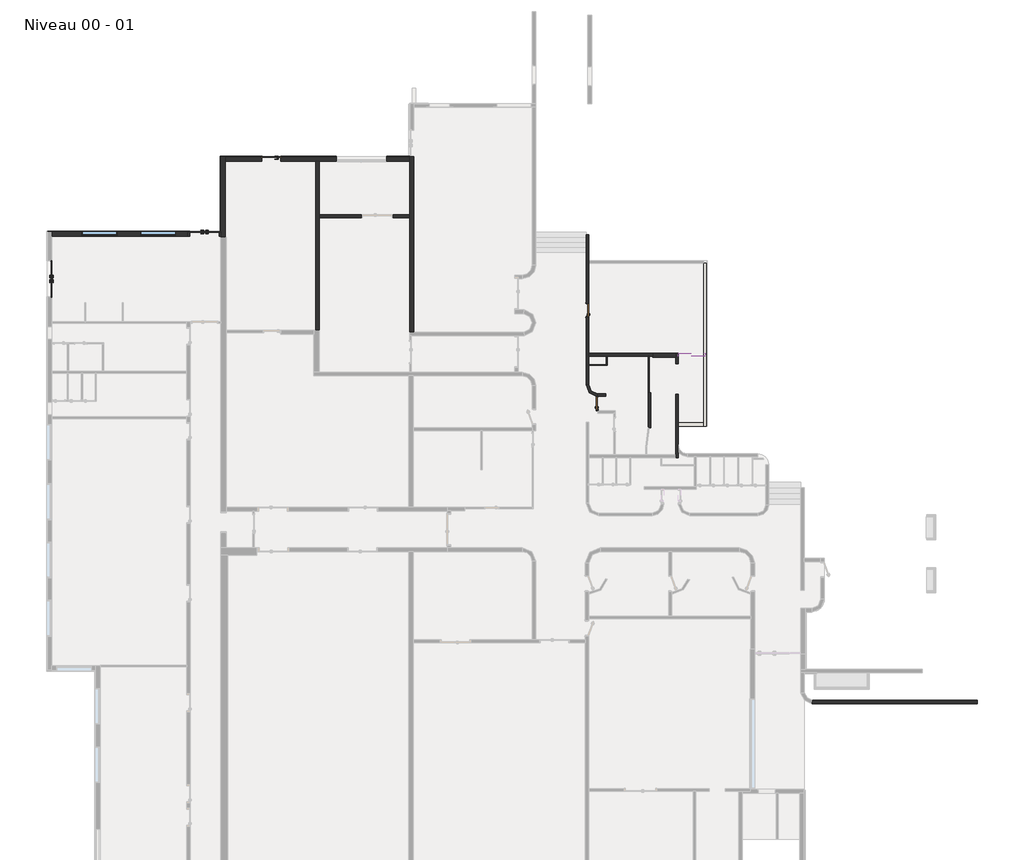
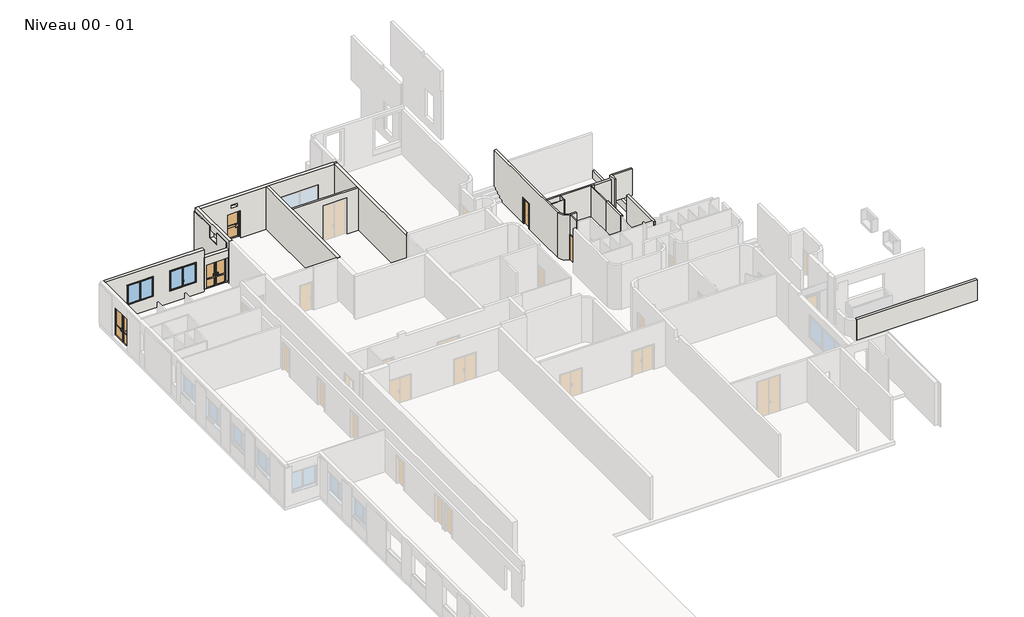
# One storey, part 7 of 8: 26 walls, 5 doors, 2 windows.
"""IFC4 building model written with IfcOpenShell, lengths in millimetres."""

from ifc_helpers import new_model, si_unit, frame, origin, place, context, project, spatial, polyline, circle_curve, outline, extrude, faceted_brep, transform, mapped, element, save
from ifc_brep_helpers import plane_surface, cylinder_surface, revolved_surface, advanced_brep
from components import door_eeb2bbe0, door_1f832047, door_1_63m_x_2_10m_9fa24bd7, door_103m_x_2_20m_767e410a, door_2m_x_2_5m_55b985e7, window_200_x_160_064ba838

model = new_model("IFC4")

# Units and contexts
model_context = context("Model", 3, world=origin())
ifc_project = project(units=[si_unit("LENGTHUNIT", "METRE", prefix="MILLI")], contexts=[model_context])

# Site, building, storey
site = spatial("IfcSite", under=ifc_project)
building = spatial("IfcBuilding", under=site)
storey = spatial("IfcBuildingStorey", under=building, Name="Niveau 00 - 01", Elevation=253.3082742)

# Doors
placement = place(None, origin())
door_shape = door_eeb2bbe0(model_context)
element("IfcDoor", 1, ObjectType="@_Int. Simple : @_PP (0.73m x 2.04m)", at=placement, inside=storey, context=model_context, shape_type="MappedRepresentation", body=[
    mapped(door_shape, transform((-15313.1997484, -5900.1664912, 253.3082742), x_axis=(0.0, 1.0, 0.0), y_axis=(-1.0, 0.0, 0.0), z_axis=(0.0, 0.0, 1.0))),
])
door_2_shape = door_1f832047(model_context)
element("IfcDoor", 2, ObjectType="@_Int. Simple : @_PP (0.73m x 2.04m)", at=placement, inside=storey, context=model_context, shape_type="MappedRepresentation", body=[
    mapped(door_2_shape, transform((-15868.9891685, -709.1151369, 253.3082742), x_axis=(0.0, 1.0, 0.0), y_axis=(-1.0, 0.0, 0.0), z_axis=(0.0, 0.0, 1.0))),
])
door_1_63m_x_2_10m_shape = door_1_63m_x_2_10m_9fa24bd7(model_context)
element("IfcDoor", 3, ObjectType="PVC Double - Panneaux vitrés haut : 1.63m x 2.10m", at=placement, inside=storey, context=model_context, shape_type="MappedRepresentation", body=[
    mapped(door_1_63m_x_2_10m_shape, transform((-37248.9891761, 3509.6445068, 253.3082742), x_axis=(-1.0, 0.0, 0.0), y_axis=(0.0, -1.0, 0.0), z_axis=(0.0, 0.0, 1.0))),
])
door_103m_x_2_20m_shape = door_103m_x_2_20m_767e410a(model_context)
element("IfcDoor", 4, ObjectType="PVC Panneau Vitré - Traverse : 103m x 2.20m", at=placement, inside=storey, context=model_context, shape_type="MappedRepresentation", body=[
    mapped(door_103m_x_2_20m_shape, transform((-33522.5516988, 7697.6789506, 253.3082742), x_axis=(-1.0, 0.0, 0.0), y_axis=(0.0, -1.0, 0.0), z_axis=(0.0, 0.0, 1.0))),
])
door_2m_x_2_5m_shape = door_2m_x_2_5m_55b985e7(model_context)
element("IfcDoor", 5, ObjectType="PVC Double - Panneaux vitrés haut : 2m x 2.5m", at=placement, inside=storey, context=model_context, shape_type="MappedRepresentation", body=[
    mapped(door_2m_x_2_5m_shape, transform((-45914.2374821, 1001.8222525, 253.3082742), x_axis=(0.0, 1.0, 0.0), y_axis=(-1.0, 0.0, 0.0), z_axis=(0.0, 0.0, 1.0))),
])

# Walls
element("IfcWall", 6, ObjectType="@_Générique - Int. 150 mm", at=placement, inside=storey, context=model_context, shape_type="Brep", body=[
    faceted_brep([(-15793.9891685, -3309.1151376, 253.3082742), (-14817.4809573, -3309.1151376, 253.3082742), (-14767.4809573, -3309.1151376, 253.3082742), (-12472.7391726, -3309.1151376, 253.3082742), (-12422.7391726, -3309.1151376, 253.3082742), (-12206.3653185, -3309.1151376, 253.3082742), (-12206.3653185, -3309.1151376, 3871.8727639), (-12422.7391726, -3309.1151376, 3871.8727639), (-12472.7391726, -3309.1151376, 3871.8727639), (-14767.4809573, -3309.1151376, 3871.8727639), (-14817.4809573, -3309.1151376, 3871.8727639), (-15793.9891685, -3309.1151376, 3871.8727639), (-15793.9891685, -3159.1151376, 253.3082742), (-15793.9891685, -3159.1151376, 3871.8727639), (-12206.3653185, -3159.1151376, 3871.8727639), (-12206.3653185, -3159.1151376, 253.3082742)], [[[0, 1, 2, 3, 4, 5, 6, 7, 8, 9, 10, 11]], [[12, 13, 14, 15]], [[5, 4, 3, 2, 1, 0, 12, 15]], [[6, 5, 15, 14]], [[0, 11, 13, 12]], [[11, 10, 9, 8, 7, 6, 14, 13]]]),
])
element("IfcWall", 7, ObjectType="@_Générique - Int. 150 mm", at=placement, inside=storey, context=model_context, shape_type="SweptSolid", body=[
    extrude(outline(polyline([(2157.8971268, 0.0), (2157.8971268, -3450.0), (-2889.2279215, -3450.0), (-2889.2279215, 0.0), (-542.1028732, 0.0), (-542.1028732, -2935.0), (1257.8971268, -2935.0), (1257.8971268, 0.0), (2157.8971268, 0.0)])), frame((-27961.8862996, 4422.0525562, 253.3082742), z_axis=(-6.1910359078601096e-12, 1.0, 0.0), x_axis=(1.0, 6.1910359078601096e-12, 0.0)), (0.0, 0.0, 1.0), 150.0),
])
element("IfcWall", 8, ObjectType="Mur EXE 200- Hach", at=placement, inside=storey, context=model_context, shape_type="SweptSolid", body=[
    extrude(outline(polyline([(-3316.4075603, -22532.8743717), (5905.5018109, -22532.8743717), (5922.5130184, -22732.8743717), (-3333.4187679, -22732.8743717), (-3316.4075603, -22532.8743717)])), frame((0.0, 0.0, -50.0), z_axis=(0.0, 0.0, 1.0), x_axis=(1.0, 0.0, 0.0)), (0.0, 0.0, 1.0), 1652.3356406),
])
element("IfcWall", 9, ObjectType="@_Générique - Int. 150 mm", at=placement, inside=storey, context=model_context, shape_type="Brep", body=[
    faceted_brep([(-9363.9891683, 1870.9456807, 253.3082742), (-9363.9891683, -7021.1974072, 253.3082742), (-9363.9891683, -7221.1974072, 253.3082742), (-9363.9891683, -7221.1974072, 648.0838649), (-9363.9891683, -7221.1974072, 693.3082742), (-9363.9891683, -7221.1974072, 893.3082742), (-9363.9891683, -3158.0708354, 893.3082742), (-9363.9891683, -1629.1151376, 893.3082742), (-9363.9891683, 1870.9456807, 893.3082742), (-9213.9891683, -7221.1974072, 253.3082742), (-9213.9891683, 1870.9456807, 253.3082742), (-9213.9891683, 1870.9456807, 693.3082742), (-9213.9891683, 1870.9456807, 893.3082742), (-9213.9891683, -1629.1151376, 893.3082742), (-9213.9891683, -3158.0708354, 893.3082742), (-9213.9891683, -7221.1974072, 893.3082742), (-9213.9891683, -7221.1974072, 693.3082742)], [[[0, 1, 2, 3, 4, 5, 6, 7, 8]], [[9, 10, 11, 12, 13, 14, 15, 16]], [[2, 1, 0, 10, 9]], [[8, 7, 6, 5, 15, 14, 13, 12]], [[2, 9, 16, 15, 5, 4, 3]], [[0, 8, 12, 11, 10]]]),
])
element("IfcWall", 10, ObjectType="@_Générique - Int. 100 mm", at=placement, inside=storey, context=model_context, shape_type="AdvancedBrep", body=[
    advanced_brep(
    [(-15363.1997484, -6362.7495118, 253.3082742), (-15363.1997484, -6362.7495118, 3871.8727639), (-15363.1997484, -5555.3591131, 3871.8727639), (-15363.1997484, -5555.3591131, 2328.3082742), (-15363.1997484, -6335.1664912, 2328.3082742), (-15363.1997484, -6335.1664912, 253.3082742), (-15263.1997484, -5558.3246809, 2328.3082742), (-15263.1997484, -5558.3246809, 3871.8727639), (-15263.1997484, -6359.0543134, 3871.8727639), (-15263.1997484, -6359.0543134, 253.3082742), (-15263.1997484, -6335.1664912, 253.3082742), (-15263.1997484, -6335.1664912, 2328.3082742), (-15293.9891721, -6359.054313, 253.3082742), (-15293.9891685, -5559.0543122, 3871.8727639), (-15293.9891685, -5559.0543122, 2328.3082742), (-15293.9678073, -6359.0543134, 3871.8727639)],
    [
        (0, 1),
        (1, 2),
        (2, 3),
        (3, 4),
        (4, 5),
        (5, 0),
        (6, 7),
        (7, 8),
        (8, 9),
        (9, 10),
        (10, 11),
        (11, 6),
        (12, 0, circle_curve(frame((-15293.9891721, -7009.054313, 253.3082742), z_axis=(0.0, 0.0, 1.0), x_axis=(6.136732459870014e-10, 1.0, 0.0)), 650.0)),
        (5, 10),
        (9, 12),
        (2, 13, circle_curve(frame((-15293.9891685, -4909.0543122, 3871.8727639), z_axis=(0.0, 0.0, 1.0), x_axis=(6.136609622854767e-10, -1.0, 0.0)), 650.0)),
        (13, 7, circle_curve(frame((-15293.9891685, -4909.0543122, 3871.8727639), z_axis=(0.0, 0.0, 1.0), x_axis=(6.136609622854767e-10, -1.0, 0.0)), 650.0)),
        (6, 14, circle_curve(frame((-15293.9891685, -4909.0543122, 2328.3082742), z_axis=(0.0, 0.0, -1.0), x_axis=(6.136609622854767e-10, -1.0, 0.0)), 650.0)),
        (14, 3, circle_curve(frame((-15293.9891685, -4909.0543122, 2328.3082742), z_axis=(0.0, 0.0, -1.0), x_axis=(6.136609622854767e-10, -1.0, 0.0)), 650.0)),
        (12, 15),
        (15, 1, circle_curve(frame((-15293.9891721, -7009.054313, 3871.8727639), z_axis=(0.0, 0.0, 1.0), x_axis=(6.136732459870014e-10, 1.0, 0.0)), 650.0)),
        (8, 15),
        (11, 4),
    ],
    [
        plane_surface(frame((-15363.1997484, -3922.4956437, 253.3082742), z_axis=(-1.0, 0.0, 0.0), x_axis=(0.0, -1.0, 0.0))),
        plane_surface(frame((-15263.1997484, -3922.4956437, 253.3082742), z_axis=(1.0, 0.0, 0.0), x_axis=(0.0, 1.0, 0.0))),
        plane_surface(frame((-15363.1997484, -5483.7333127, 253.3082742), z_axis=(0.0, 0.0, -1.0), x_axis=(1.0, 0.0, 0.0))),
        revolved_surface(polyline([(-15293.989168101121, -5559.0543122, 3871.8727639), (-15293.989168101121, -5559.0543122, 2328.3082742)]), (-15293.9891685, -4909.0543122, 253.3082742), (0.0, 0.0, 1.0)),
        revolved_surface(polyline([(-15293.989171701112, -6359.054313, 3871.8727639), (-15293.989171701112, -6359.054313, 253.3082742)]), (-15293.9891721, -7009.054313, 253.3082742), (0.0, 0.0, 1.0)),
        plane_surface(frame((-14844.7120712, -6359.0543134, 253.3082742), z_axis=(0.0, -1.0, 0.0), x_axis=(-1.0, 0.0, 0.0))),
        plane_surface(frame((-13839.1997484, -5535.1664912, 2328.3082742), z_axis=(0.0, 0.0, -1.0), x_axis=(-1.0, 0.0, 0.0))),
        plane_surface(frame((-13839.1997484, -6335.1664912, 2328.3082742), z_axis=(0.0, 1.0, 0.0), x_axis=(-1.0, 0.0, 0.0))),
        plane_surface(frame((-25843.9891731, 10670.8848595, 3871.8727639), z_axis=(0.0, 0.0, 1.0), x_axis=(0.0, 1.0, 0.0))),
    ],
    [
        (0, [[1, 2, 3, 4, 5, 6]]),
        (1, [[7, 8, 9, 10, 11, 12]]),
        (2, [[13, -6, 14, -10, 15]]),
        (3, [[-3, 16, 17, -7, 18, 19]]),
        (4, [[-1, -13, 20, 21]]),
        (5, [[-9, 22, -20, -15]]),
        (6, [[23, -4, -19, -18, -12]]),
        (7, [[-23, -11, -14, -5]]),
        (8, [[-17, -16, -2, -21, -22, -8]]),
    ],
),
])
element("IfcWall", 11, ObjectType="@_Générique - Int. 50 mm", at=placement, inside=storey, context=model_context, shape_type="Brep", body=[
    faceted_brep([(-14767.4809573, -3832.3398245, 253.3082742), (-14767.4809573, -3309.1151376, 253.3082742), (-14767.4809573, -3309.1151376, 3871.8727639), (-14767.4809573, -3832.3398245, 3871.8727639), (-14817.4809573, -3832.3398245, 253.3082742), (-14817.4809573, -3832.3398245, 3871.8727639), (-14817.4809573, -3782.3398245, 3871.8727639), (-14817.4809573, -3309.1151376, 3871.8727639), (-14817.4809573, -3309.1151376, 253.3082742), (-14817.4809573, -3782.3398245, 253.3082742)], [[[0, 1, 2, 3]], [[4, 5, 6, 7, 8, 9]], [[1, 0, 4, 9, 8]], [[0, 3, 5, 4]], [[2, 1, 8, 7]], [[3, 2, 7, 6, 5]]]),
])
element("IfcWall", 12, ObjectType="@_Générique - Int. 50 mm", at=placement, inside=storey, context=model_context, shape_type="SweptSolid", body=[
    extrude(outline(polyline([(-15793.9891685, -3782.3398245), (-14817.4809573, -3782.3398245), (-14817.4809573, -3832.3398245), (-15793.9891685, -3832.3398245), (-15793.9891685, -3782.3398245)])), frame((0.0, 0.0, 253.3082742), z_axis=(0.0, 0.0, 1.0), x_axis=(1.0, 0.0, 0.0)), (0.0, 0.0, 1.0), 3618.5644896),
])
element("IfcWall", 13, ObjectType="Mur EXE 40- Hach", at=placement, inside=storey, context=model_context, shape_type="Brep", body=[
    faceted_brep([(-44115.8852634, 3674.6445068, 1224.3082742), (-42129.8290653, 3674.6445068, 1224.3082742), (-42129.8290653, 3674.6445068, 253.3082742), (-44115.8852634, 3674.6445068, 253.3082742), (-44115.8852634, 3634.6445068, 1224.3082742), (-44115.8852634, 3634.6445068, 253.3082742), (-42129.8290653, 3634.6445068, 253.3082742), (-42129.8290653, 3634.6445068, 1224.3082742)], [[[0, 1, 2, 3]], [[4, 5, 6, 7]], [[1, 0, 4, 7]], [[0, 3, 5, 4]], [[2, 1, 7, 6]], [[3, 2, 6, 5]]]),
    faceted_brep([(-42114.8290653, 3674.6445068, 1224.3082742), (-42114.8290653, 3674.6445068, 3421.8727639), (-40855.824221, 3674.6445068, 3421.8727639), (-40855.824221, 3674.6445068, 1224.3082742), (-40855.824221, 3674.6445068, 253.3082742), (-42114.8290653, 3674.6445068, 253.3082742), (-42114.8290653, 3634.6445068, 1224.3082742), (-42114.8290653, 3634.6445068, 253.3082742), (-40855.824221, 3634.6445068, 253.3082742), (-40855.824221, 3634.6445068, 1224.3082742), (-40855.824221, 3634.6445068, 3421.8727639), (-42114.8290653, 3634.6445068, 3421.8727639)], [[[0, 1, 2, 3, 4, 5]], [[6, 7, 8, 9, 10, 11]], [[1, 0, 6, 11]], [[2, 1, 11, 10]], [[0, 5, 7, 6]], [[5, 4, 8, 7]], [[3, 2, 10, 9]], [[4, 3, 9, 8]]]),
    faceted_brep([(-44130.8852634, 3674.6445068, 3421.8727639), (-44130.8852634, 3674.6445068, 1224.3082742), (-44130.8852634, 3674.6445068, 253.3082742), (-46039.2374821, 3674.6445068, 253.3082742), (-46039.2374821, 3674.6445068, 256.6165485), (-46039.2374821, 3674.6445068, 3421.8727639), (-44130.8852634, 3634.6445068, 3421.8727639), (-46039.2374821, 3634.6445068, 3421.8727639), (-46039.2374821, 3634.6445068, 253.3082742), (-45789.2374821, 3634.6445068, 253.3082742), (-44130.8852634, 3634.6445068, 253.3082742), (-44130.8852634, 3634.6445068, 1224.3082742)], [[[0, 1, 2, 3, 4, 5]], [[6, 7, 8, 9, 10, 11]], [[1, 0, 6, 11]], [[3, 2, 10, 9, 8]], [[2, 1, 11, 10]], [[0, 5, 7, 6]], [[5, 4, 3, 8, 7]]]),
    faceted_brep([(-38839.913233, 3674.6445068, 1224.3082742), (-38839.913233, 3674.6445068, 3421.8727639), (-38073.9891761, 3674.6445068, 3421.8727639), (-38073.9891761, 3674.6445068, 1224.3082742), (-38073.9891761, 3674.6445068, 253.3082742), (-38839.913233, 3674.6445068, 253.3082742), (-38839.913233, 3634.6445068, 1224.3082742), (-38839.913233, 3634.6445068, 253.3082742), (-38223.9891755, 3634.6445068, 253.3082742), (-38073.9891761, 3634.6445068, 253.3082742), (-38073.9891761, 3634.6445068, 1224.3082742), (-38073.9891761, 3634.6445068, 3421.8727639), (-38839.913233, 3634.6445068, 3421.8727639)], [[[0, 1, 2, 3, 4, 5]], [[6, 7, 8, 9, 10, 11, 12]], [[1, 0, 6, 12]], [[3, 2, 11, 10]], [[0, 5, 7, 6]], [[4, 3, 10, 9]], [[2, 1, 12, 11]], [[5, 4, 9, 8, 7]]]),
    faceted_brep([(-40840.824221, 3674.6445068, 1224.3082742), (-38854.913233, 3674.6445068, 1224.3082742), (-38854.913233, 3674.6445068, 253.3082742), (-40840.824221, 3674.6445068, 253.3082742), (-40840.824221, 3634.6445068, 1224.3082742), (-40840.824221, 3634.6445068, 253.3082742), (-38854.913233, 3634.6445068, 253.3082742), (-38854.913233, 3634.6445068, 1224.3082742)], [[[0, 1, 2, 3]], [[4, 5, 6, 7]], [[1, 0, 4, 7]], [[0, 3, 5, 4]], [[2, 1, 7, 6]], [[3, 2, 6, 5]]]),
])
element("IfcWall", 14, ObjectType="Mur EXE 40- Hach", at=placement, inside=storey, context=model_context, shape_type="Brep", body=[
    faceted_brep([(-36343.9891745, 7862.6789506, 3421.8727639), (-34023.9891767, 7862.6789506, 3421.8727639), (-34023.9891767, 7862.6789506, 253.3082742), (-36343.9891745, 7862.6789506, 253.3082742), (-34023.9891767, 7822.6789506, 3421.8727639), (-36343.9891745, 7822.6789506, 3421.8727639), (-36343.9891745, 7822.6789506, 253.3082742), (-34023.9891767, 7822.6789506, 253.3082742)], [[[0, 1, 2, 3]], [[4, 5, 6, 7]], [[1, 0, 5, 4]], [[2, 1, 4, 7]], [[3, 2, 7, 6]], [[0, 3, 6, 5]]]),
    faceted_brep([(-27075.9891757, 7862.6789506, 253.3082742), (-27075.9891757, 7862.6789506, 3421.8727639), (-25803.9891757, 7862.6789506, 3421.8727639), (-25803.9891757, 7862.6789506, 2463.3082742), (-26053.9891729, 7862.6789506, 2463.3082742), (-26053.9891729, 7862.6789506, 253.3082742), (-27075.9891757, 7822.6789506, 3421.8727639), (-27075.9891757, 7822.6789506, 253.3082742), (-25803.9891757, 7822.6789506, 253.3082742), (-25803.9891757, 7822.6789506, 1224.3082742), (-25803.9891757, 7822.6789506, 3421.8727639), (-25803.9891757, 7857.6789506, 1224.3082742), (-25803.9891757, 7857.6789506, 2463.3082742), (-25803.9891757, 7857.6789506, 253.3082742), (-26053.9891729, 7857.6789506, 253.3082742), (-26053.9891729, 7857.6789506, 2463.3082742)], [[[0, 1, 2, 3, 4, 5]], [[6, 7, 8, 9, 10]], [[1, 0, 7, 6]], [[10, 9, 11, 12, 3, 2]], [[9, 8, 13, 11]], [[2, 1, 6, 10]], [[8, 7, 0, 5, 14, 13]], [[15, 4, 3, 12]], [[15, 14, 5, 4]], [[14, 15, 12, 11, 13]]]),
    faceted_brep([(-29891.9891757, 7862.6789506, 253.3082742), (-33003.9891767, 7862.6789506, 253.3082742), (-33003.9891767, 7862.6789506, 3421.8727639), (-29891.9891757, 7862.6789506, 3421.8727639), (-33003.9891767, 7822.6789506, 253.3082742), (-29891.9891757, 7822.6789506, 253.3082742), (-29891.9891757, 7822.6789506, 3421.8727639), (-33003.9891767, 7822.6789506, 3421.8727639)], [[[0, 1, 2, 3]], [[4, 5, 6, 7]], [[1, 0, 5, 4]], [[0, 3, 6, 5]], [[2, 1, 4, 7]], [[3, 2, 7, 6]]]),
])
element("IfcWall", 15, ObjectType="Mur EXE 40- Hach", at=placement, inside=storey, context=model_context, shape_type="Brep", body=[
    faceted_brep([(-36383.9891745, 5814.644505, 2503.3082742), (-36383.9891745, 5814.644505, 3421.8727639), (-36383.9891745, 7862.6789506, 3421.8727639), (-36383.9891745, 7862.6789506, 253.3082742), (-36383.9891745, 3634.6445068, 253.3082742), (-36383.9891745, 3634.6445068, 466.6165485), (-36383.9891745, 3634.6445068, 2403.3082742), (-36383.9891745, 3634.6445068, 3421.8727639), (-36383.9891745, 4914.644505, 3421.8727639), (-36383.9891745, 4914.644505, 2503.3082742), (-36343.9891745, 7862.6789506, 3421.8727639), (-36343.9891745, 7822.6789506, 3421.8727639), (-36343.9891745, 5814.644505, 3421.8727639), (-36343.9891745, 5814.644505, 3103.3082742), (-36343.9891745, 5814.644505, 2503.3082742), (-36343.9891745, 4914.644505, 2503.3082742), (-36343.9891745, 4914.644505, 3103.3082742), (-36343.9891745, 4914.644505, 3421.8727639), (-36343.9891745, 3634.6445068, 3421.8727639), (-36343.9891745, 3634.6445068, 3008.9422678), (-36343.9891745, 3634.6445068, 466.6165485), (-36343.9891745, 3634.6445068, 253.3082742), (-36343.9891745, 7822.6789506, 253.3082742), (-36343.9891745, 7862.6789506, 253.3082742)], [[[0, 1, 2, 3, 4, 5, 6, 7, 8, 9]], [[10, 11, 12, 13, 14, 15, 16, 17, 18, 19, 20, 21, 22, 23]], [[12, 1, 0, 14, 13]], [[2, 1, 12, 11, 10]], [[8, 17, 16, 15, 9]], [[4, 3, 23, 22, 21]], [[3, 2, 10, 23]], [[8, 7, 18, 17]], [[14, 0, 9, 15]], [[7, 6, 5, 4, 21, 20, 19, 18]]]),
])
element("IfcWall", 16, ObjectType="@_Générique - Int. 50 mm", at=placement, inside=storey, context=model_context, shape_type="SweptSolid", body=[
    extrude(outline(polyline([(-12422.7391726, -3309.1151376), (-12422.7391726, -5354.1151369), (-12472.7391726, -5354.1151369), (-12472.7391726, -3309.1151376), (-12422.7391726, -3309.1151376)])), frame((0.0, 0.0, 253.3082742), z_axis=(0.0, 0.0, 1.0), x_axis=(1.0, 0.0, 0.0)), (0.0, 0.0, 1.0), 3618.5644896),
])
element("IfcWall", 17, ObjectType="@_Générique - Int. 150 mm", at=placement, inside=storey, context=model_context, shape_type="Brep", body=[
    faceted_brep([(-9288.9891683, -3309.1151376, 1985.7076112), (-9288.9891683, -3309.1151376, 3871.8727639), (-9288.9891683, -3309.1151376, 4121.8727639), (-10793.9891704, -3309.1151376, 4121.8727639), (-10793.9891704, -3309.1151376, 1985.7076112), (-9363.9891683, -3309.1151376, 1985.7076112), (-9288.9891683, -3159.1151376, 4121.8727639), (-9288.9891683, -3159.1151376, 3871.8727639), (-9288.9891683, -3159.1151376, 1985.7076112), (-9363.9891683, -3159.1151376, 1985.7076112), (-10793.9891704, -3159.1151376, 1985.7076112), (-10793.9891704, -3159.1151376, 4121.8727639)], [[[0, 1, 2, 3, 4, 5]], [[6, 7, 8, 9, 10, 11]], [[2, 1, 0, 8, 7, 6]], [[2, 6, 11, 3]], [[0, 5, 4, 10, 9, 8]], [[4, 3, 11, 10]]]),
])
element("IfcWall", 18, ObjectType="@_Générique - Int. 220 mm", at=placement, inside=storey, context=model_context, shape_type="Brep", body=[
    faceted_brep([(-12206.3653185, -3379.1151376, 253.3082742), (-10943.9891704, -3379.1151376, 253.3082742), (-10943.9891704, -3379.1151376, 3871.8727639), (-12206.3653185, -3379.1151376, 3871.8727639), (-12206.3653185, -3159.1151376, 253.3082742), (-12206.3653185, -3159.1151376, 3871.8727639), (-10943.9891704, -3159.1151376, 3871.8727639), (-10943.9891704, -3159.1151376, 253.3082742), (-12206.3653185, -3309.1151376, 253.3082742), (-12206.3653185, -3309.1151376, 3871.8727639)], [[[0, 1, 2, 3]], [[4, 5, 6, 7]], [[1, 0, 8, 4, 7]], [[0, 3, 9, 5, 4, 8]], [[3, 2, 6, 5, 9]], [[2, 1, 7, 6]]]),
])
element("IfcWall", 19, ObjectType="Ext. Voile BA 150", at=placement, inside=storey, context=model_context, shape_type="Brep", body=[
    faceted_brep([(-15793.9891685, 3465.6996038, 580.4441916), (-15793.9891685, 3465.6996038, 893.3082742), (-15793.9891685, 3465.6996038, 3871.8727639), (-15793.9891685, 2020.9456807, 3871.8727639), (-15793.9891685, 1870.9456807, 3871.8727639), (-15793.9891685, -3159.1151376, 3871.8727639), (-15793.9891685, -3309.1151376, 3871.8727639), (-15793.9891685, -3782.3398245, 3871.8727639), (-15793.9891685, -3832.3398245, 3871.8727639), (-15793.9891685, -4909.0543122, 3871.8727639), (-15793.9891685, -4909.0543122, 253.3082742), (-15793.9891685, -3832.3398245, 253.3082742), (-15793.9891685, -3782.3398245, 253.3082742), (-15793.9891685, -3309.1151376, 253.3082742), (-15793.9891685, -3159.1151376, 253.3082742), (-15793.9891685, -1144.1151369, 253.3082742), (-15793.9891685, -1144.1151369, 2328.3082742), (-15793.9891685, -344.1151369, 2328.3082742), (-15793.9891685, -344.1151369, 253.3082742), (-15793.9891685, 1870.9456807, 253.3082742), (-15793.9891685, 2020.9456807, 253.3082742), (-15793.9891685, 2888.4999873, 253.3082742), (-15943.9891685, 3465.6996038, 3871.8727639), (-15943.9891685, 3465.6996038, 893.3082742), (-15943.9891685, 3465.6996038, 580.4441916), (-15943.9891685, 2888.4999873, 253.3082742), (-15943.9891685, -344.1151369, 253.3082742), (-15943.9891685, -344.1151369, 2328.3082742), (-15943.9891685, -1144.1151369, 2328.3082742), (-15943.9891685, -1144.1151369, 253.3082742), (-15943.9891685, -4909.0543122, 253.3082742), (-15943.9891685, -4909.0543122, 3871.8727639)], [[[0, 1, 2, 3, 4, 5, 6, 7, 8, 9, 10, 11, 12, 13, 14, 15, 16, 17, 18, 19, 20, 21]], [[22, 23, 24, 25, 26, 27, 28, 29, 30, 31]], [[10, 30, 29, 15, 14, 13, 12, 11]], [[25, 21, 20, 19, 18, 26]], [[2, 1, 0, 24, 23, 22]], [[10, 9, 31, 30]], [[0, 21, 25, 24]], [[17, 27, 26, 18]], [[28, 16, 15, 29]], [[16, 28, 27, 17]], [[9, 8, 7, 6, 5, 4, 3, 2, 22, 31]]]),
])
element("IfcWall", 20, ObjectType="Ext. Voile BA 150", at=placement, inside=storey, context=model_context, shape_type="Brep", body=[
    faceted_brep([(-14844.7120712, -5409.0543119, 253.3082742), (-15293.9891685, -5409.0543119, 253.3082742), (-15293.9891685, -5409.0543119, 3871.8727639), (-14844.7120712, -5409.0543119, 3871.8727639), (-14844.7120712, -5559.0543119, 253.3082742), (-14844.7120712, -5559.0543119, 3871.8727639), (-15293.9891685, -5559.0543119, 3871.8727639), (-15293.9891685, -5559.0543119, 2328.3082742), (-15263.1997484, -5559.0543119, 2328.3082742), (-15263.1997484, -5559.0543119, 253.3082742), (-15263.1997484, -5535.1664912, 253.3082742), (-15293.9891685, -5535.1664912, 253.3082742), (-15293.9891685, -5535.1664912, 2328.3082742), (-15263.1997484, -5535.1664912, 2328.3082742)], [[[0, 1, 2, 3]], [[4, 5, 6, 7, 8, 9]], [[1, 0, 4, 9, 10, 11]], [[2, 1, 11, 12, 7, 6]], [[0, 3, 5, 4]], [[3, 2, 6, 5]], [[13, 10, 9, 8]], [[10, 13, 12, 11]], [[13, 8, 7, 12]]]),
])
element("IfcWall", 21, ObjectType="Ext. Voile BA 150", at=placement, inside=storey, context=model_context, shape_type="AdvancedBrep", body=[
    advanced_brep(
    [(-15793.9891685, -4909.0543122, 253.3082742), (-15293.9891685, -5409.0543122, 253.3082742), (-15293.9891685, -5535.1664912, 253.3082742), (-15363.1997484, -5535.1664912, 253.3082742), (-15363.1997484, -5555.3591131, 253.3082742), (-15943.9891685, -4909.0543122, 253.3082742), (-15943.9891685, -4909.0543122, 3871.8727639), (-15363.1997484, -5555.3591131, 2328.3082742), (-15293.9891685, -5559.0543122, 2328.3082742), (-15293.9891685, -5559.0543122, 3871.8727639), (-15363.1997484, -5555.3591131, 3871.8727639), (-15293.9891685, -5409.0543122, 3871.8727639), (-15293.9891685, -5535.1664912, 2328.3082742), (-15793.9891685, -4909.0543122, 3871.8727639), (-15363.1997484, -5535.1664912, 2328.3082742)],
    [
        (0, 1, circle_curve(frame((-15293.9891685, -4909.0543122, 253.3082742), z_axis=(0.0, 0.0, 1.0), x_axis=(6.136609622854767e-10, -1.0, 0.0)), 500.0)),
        (1, 2),
        (2, 3),
        (3, 4),
        (4, 5, circle_curve(frame((-15293.9891685, -4909.0543122, 253.3082742), z_axis=(0.0, 0.0, -1.0), x_axis=(6.136609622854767e-10, -1.0, 0.0)), 650.0)),
        (5, 0),
        (6, 5),
        (4, 7),
        (7, 8, circle_curve(frame((-15293.9891685, -4909.0543122, 2328.3082742), z_axis=(0.0, 0.0, 1.0), x_axis=(6.136609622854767e-10, -1.0, 0.0)), 650.0)),
        (8, 9),
        (9, 10, circle_curve(frame((-15293.9891685, -4909.0543122, 3871.8727639), z_axis=(0.0, 0.0, -1.0), x_axis=(6.136609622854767e-10, -1.0, 0.0)), 650.0)),
        (10, 6, circle_curve(frame((-15293.9891685, -4909.0543122, 3871.8727639), z_axis=(0.0, 0.0, -1.0), x_axis=(6.136609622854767e-10, -1.0, 0.0)), 650.0)),
        (1, 11),
        (11, 9),
        (8, 12),
        (12, 2),
        (0, 13),
        (13, 11, circle_curve(frame((-15293.9891685, -4909.0543122, 3871.8727639), z_axis=(0.0, 0.0, 1.0), x_axis=(6.136609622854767e-10, -1.0, 0.0)), 500.0)),
        (6, 13),
        (3, 14),
        (14, 7),
        (12, 14),
    ],
    [
        plane_surface(frame((-15293.9891681, -5559.0543122, 253.3082742), z_axis=(0.0, 0.0, -1.0), x_axis=(-1.0, -6.136608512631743e-10, 0.0))),
        cylinder_surface(frame((-15293.9891685, -4909.0543122, 253.3082742), z_axis=(0.0, 0.0, 1.0), x_axis=(6.136609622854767e-10, -1.0, 0.0)), 650.0),
        plane_surface(frame((-15293.9891685, -5559.0543122, 3871.8727639), z_axis=(1.0, 0.0, 0.0), x_axis=(0.0, 0.0, -1.0))),
        revolved_surface(polyline([(-15293.98916819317, -5409.0543122, 253.3082742), (-15293.98916819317, -5409.0543122, 3871.8727639)]), (-15293.9891685, -4909.0543122, 253.3082742), (0.0, 0.0, -1.0)),
        plane_surface(frame((-15793.9891685, -4909.0543122, 3871.8727639), z_axis=(0.0, 1.0, 0.0), x_axis=(0.0, 0.0, -1.0))),
        plane_surface(frame((-25843.9891731, 10670.8848595, 3871.8727639), z_axis=(0.0, 0.0, 1.0), x_axis=(0.0, 1.0, 0.0))),
        plane_surface(frame((-15363.1997484, -5535.1664912, 253.3082742), z_axis=(1.0, 0.0, 0.0), x_axis=(0.0, 0.0, -1.0))),
        plane_surface(frame((-15263.1997484, -5535.1664912, 253.3082742), z_axis=(0.0, -1.0, 0.0), x_axis=(-1.0, 0.0, 0.0))),
        plane_surface(frame((-15263.1997484, -5535.1664912, 2328.3082742), z_axis=(0.0, 0.0, -1.0), x_axis=(-1.0, 0.0, 0.0))),
    ],
    [
        (0, [[1, 2, 3, 4, 5, 6]]),
        (1, [[7, -5, 8, 9, 10, 11, 12]]),
        (2, [[13, 14, -10, 15, 16, -2]]),
        (3, [[-1, 17, 18, -13]]),
        (4, [[-6, -7, 19, -17]]),
        (5, [[-12, -11, -14, -18, -19]]),
        (6, [[20, 21, -8, -4]]),
        (7, [[-20, -3, -16, 22]]),
        (8, [[-21, -22, -15, -9]]),
    ],
),
])
element("IfcWall", 22, ObjectType="Ext. Voile BA 150", at=placement, inside=storey, context=model_context, shape_type="AdvancedBrep", body=[
    advanced_brep(
    [(-10943.9891704, -3159.1151376, 253.3082742), (-10943.9891704, -3379.1151376, 253.3082742), (-10943.9891704, -3742.2628294, 253.3082742), (-10943.9891704, -3742.2628294, 4121.8727639), (-10943.9891704, -3159.1151376, 4121.8727639), (-10943.9891704, -3159.1151376, 3871.8727639), (-10793.9891704, -3159.1151376, 253.3082742), (-10793.9891704, -3159.1151376, 1985.7076112), (-10793.9891704, -3159.1151376, 4121.8727639), (-10793.9891704, -3309.1151376, 4121.8727639), (-10793.9891704, -3739.8443093, 4121.8727639), (-10793.9891704, -3739.8443093, 253.3082742)],
    [
        (0, 1),
        (1, 2),
        (2, 3),
        (3, 4),
        (4, 5),
        (5, 0),
        (6, 7),
        (7, 8),
        (8, 9),
        (9, 10),
        (10, 11),
        (11, 6),
        (0, 6),
        (11, 2, circle_curve(frame((-10842.7391726, -5369.1151392, 253.3082742), z_axis=(0.0, 0.0, 1.0), x_axis=(-0.5808729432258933, 0.8139942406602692, 0.0)), 1630.0)),
        (3, 10, circle_curve(frame((-10842.7391726, -5369.1151392, 4121.8727639), z_axis=(0.0, 0.0, -1.0), x_axis=(-0.5808729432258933, 0.8139942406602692, 0.0)), 1630.0)),
        (8, 4),
    ],
    [
        plane_surface(frame((-10943.9891704, -4563.6719012, 253.3082742), z_axis=(-1.0, 0.0, 0.0), x_axis=(0.0, -1.0, 0.0))),
        plane_surface(frame((-10793.9891704, -4563.6719012, 253.3082742), z_axis=(1.0, 0.0, 0.0), x_axis=(0.0, 1.0, 0.0))),
        plane_surface(frame((-10943.9891704, -3269.1151376, 253.3082742), z_axis=(0.0, 0.0, -1.0), x_axis=(1.0, 0.0, 0.0))),
        plane_surface(frame((-10943.9891704, -3814.3367185, 4121.8727639), z_axis=(0.0, 0.0, 1.0), x_axis=(1.0, 0.0, 0.0))),
        revolved_surface(polyline([(-11789.562070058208, -4042.3045269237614, 4121.8727639), (-11789.562070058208, -4042.3045269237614, 253.3082742)]), (-10842.7391726, -5369.1151392, 253.3082742), (0.0, 0.0, 1.0)),
        plane_surface(frame((-9490.9835109, -3159.1151376, 253.3082742), z_axis=(0.0, 1.0, 0.0), x_axis=(-1.0, 0.0, 0.0))),
    ],
    [
        (0, [[1, 2, 3, 4, 5, 6]]),
        (1, [[7, 8, 9, 10, 11, 12]]),
        (2, [[-2, -1, 13, -12, 14]]),
        (3, [[-4, 15, -10, -9, 16]]),
        (4, [[-3, -14, -11, -15]]),
        (5, [[-6, -5, -16, -8, -7, -13]]),
    ],
),
])
element("IfcWall", 23, ObjectType="Ext. Voile BA 150", at=placement, inside=storey, context=model_context, shape_type="Brep", body=[
    faceted_brep([(-10943.98917, -5429.1151397, 253.3082742), (-10943.98917, -8826.6151381, 253.3082742), (-10943.98917, -8976.6151381, 253.3082742), (-10943.98917, -8976.6151381, 3871.8727639), (-10943.98917, -8826.6151381, 3871.8727639), (-10943.98917, -5429.1151397, 3871.8727639), (-10793.98917, -5429.1151397, 253.3082742), (-10793.98917, -5429.1151397, 3871.8727639), (-10793.98917, -8271.2578605, 3871.8727639), (-10793.98917, -8686.5890537, 3871.8727639), (-10793.98917, -8976.6151381, 3871.8727639), (-10793.98917, -8976.6151381, 253.3082742), (-10793.98917, -8686.5890537, 253.3082742), (-10793.98917, -8271.2578605, 253.3082742), (-10793.98917, -7221.1974072, 253.3082742), (-10793.98917, -7021.1974072, 253.3082742)], [[[0, 1, 2, 3, 4, 5]], [[6, 7, 8, 9, 10, 11, 12, 13, 14, 15]], [[2, 1, 0, 6, 15, 14, 13, 12, 11]], [[5, 4, 3, 10, 9, 8, 7]], [[0, 5, 7, 6]], [[3, 2, 11, 10]]]),
])
element("IfcWall", 24, ObjectType="Ext. Voile BA 150", at=placement, inside=storey, context=model_context, shape_type="Brep", body=[
    faceted_brep([(-12472.7391726, -5369.1151392, 253.3082742), (-12472.7391726, -7296.1001055, 253.3082742), (-12472.7391726, -7302.156728, 253.3082742), (-12472.7391726, -7302.156728, 3871.8727639), (-12472.7391726, -7296.1001055, 3871.8727639), (-12472.7391726, -5369.1151392, 3871.8727639), (-12322.7391726, -5369.1151392, 253.3082742), (-12322.7391726, -5369.1151392, 3871.8727639), (-12322.7391726, -7302.156728, 3871.8727639), (-12322.7391726, -7302.156728, 253.3082742), (-12423.4522682, -7302.156728, 253.3082742), (-12323.9891732, -7302.156728, 3871.8727639), (-12423.4522682, -7302.156728, 3871.8727639), (-12323.9891732, -5369.1151392, 3871.8727639), (-12323.9891732, -5373.7802048, 3871.8727639)], [[[0, 1, 2, 3, 4, 5]], [[6, 7, 8, 9]], [[2, 1, 0, 6, 9, 10]], [[3, 2, 10, 9, 8, 11, 12]], [[0, 5, 13, 7, 6]], [[11, 8, 7, 13, 14]], [[5, 4, 3, 12, 11, 14, 13]]]),
])
element("IfcWall", 25, ObjectType="Ext. Voile BA 200", at=placement, inside=storey, context=model_context, shape_type="Brep", body=[
    faceted_brep([(-31051.1142211, 7572.6789506, 253.3082742), (-31051.1142211, -1877.894755, 253.3082742), (-31051.1142211, -1877.894755, 3703.3082742), (-31051.1142211, 7572.6789506, 3703.3082742), (-30851.1142211, 7572.6789506, 253.3082742), (-30851.1142211, 7572.6789506, 3703.3082742), (-30851.1142211, 4572.0525562, 3703.3082742), (-30851.1142211, 4422.0525562, 3703.3082742), (-30851.1142211, -1877.894755, 3703.3082742), (-30851.1142211, -1877.894755, 3653.3082742), (-30851.1142211, -1877.894755, 466.6165485), (-30851.1142211, -1877.894755, 253.3082742), (-30851.1142211, 4422.0525562, 253.3082742), (-30851.1142211, 4572.0525562, 253.3082742)], [[[0, 1, 2, 3]], [[4, 5, 6, 7, 8, 9, 10, 11, 12, 13]], [[1, 0, 4, 13, 12, 11]], [[2, 1, 11, 10, 9, 8]], [[0, 3, 5, 4]], [[3, 2, 8, 7, 6, 5]]]),
])
element("IfcWall", 26, ObjectType="Ext. Voile BA 200", at=placement, inside=storey, context=model_context, shape_type="SweptSolid", body=[
    extrude(outline(polyline([(-10793.98917, -7021.1974072), (-9363.9891683, -7021.1974072), (-9363.9891683, -7221.1974072), (-10793.98917, -7221.1974072), (-10793.98917, -7021.1974072)])), frame((0.0, 0.0, 253.3082742), z_axis=(0.0, 0.0, 1.0), x_axis=(1.0, 0.0, 0.0)), (0.0, 0.0, 1.0), 394.7755907),
])
element("IfcWall", 27, ObjectType="Ext. Voile BA 250", at=placement, inside=storey, context=model_context, shape_type="Brep", body=[
    faceted_brep([(-38223.9891755, 3634.6445068, 466.6165485), (-38223.9891755, 3634.6445068, 3008.9422678), (-36343.9891745, 3634.6445068, 3008.9422678), (-36343.9891745, 3634.6445068, 466.6165485), (-36383.9891761, 3634.6445068, 466.6165485), (-36383.9891761, 3634.6445068, 2403.3082742), (-38113.9891761, 3634.6445068, 2403.3082742), (-38113.9891761, 3634.6445068, 466.6165485), (-38223.9891755, 3384.6445068, 3008.9422678), (-38223.9891755, 3384.6445068, 466.6165485), (-38073.9891761, 3384.6445068, 466.6165485), (-38073.9891761, 3384.6445068, 2363.3082742), (-36423.9891761, 3384.6445068, 2363.3082742), (-36423.9891761, 3384.6445068, 466.6165485), (-36343.9891745, 3384.6445068, 466.6165485), (-36343.9891745, 3384.6445068, 3008.9422678), (-38113.9891761, 3584.6445068, 466.6165485), (-38073.9891761, 3584.6445068, 466.6165485), (-36423.9891761, 3584.6445068, 466.6165485), (-36383.9891761, 3584.6445068, 466.6165485), (-38223.9891755, 3434.6445068, 3008.9422678), (-38073.9891761, 3584.6445068, 2363.3082742), (-36423.9891761, 3584.6445068, 2363.3082742), (-36383.9891761, 3584.6445068, 2403.3082742), (-38113.9891761, 3584.6445068, 2403.3082742)], [[[0, 1, 2, 3, 4, 5, 6, 7]], [[8, 9, 10, 11, 12, 13, 14, 15]], [[9, 0, 7, 16, 17, 10]], [[3, 14, 13, 18, 19, 4]], [[1, 0, 9, 8, 20]], [[2, 1, 20, 8, 15]], [[21, 22, 12, 11]], [[12, 22, 18, 13]], [[21, 11, 10, 17]], [[23, 5, 4, 19]], [[22, 21, 17, 16, 24, 23, 19, 18]], [[5, 23, 24, 6]], [[6, 24, 16, 7]], [[3, 2, 15, 14]]]),
])
element("IfcWall", 28, ObjectType="Ext. Voile BA 250", at=placement, inside=storey, context=model_context, shape_type="Brep", body=[
    faceted_brep([(-36093.9891745, 3334.6445068, 253.3082742), (-36093.9891745, 7572.6789506, 253.3082742), (-36093.9891745, 7822.6789506, 253.3082742), (-36093.9891745, 7822.6789506, 3703.3082742), (-36093.9891745, 7572.6789506, 3703.3082742), (-36093.9891745, 3334.6445068, 3703.3082742), (-36093.9891745, 5814.644505, 2503.3082742), (-36093.9891745, 4914.644505, 2503.3082742), (-36093.9891745, 4914.644505, 3103.3082742), (-36093.9891745, 5814.644505, 3103.3082742), (-36343.9891745, 3334.6445068, 253.3082742), (-36343.9891745, 3334.6445068, 3703.3082742), (-36343.9891745, 7822.6789506, 3703.3082742), (-36343.9891745, 7822.6789506, 253.3082742), (-36343.9891745, 3634.6445068, 253.3082742), (-36343.9891745, 5814.644505, 2503.3082742), (-36343.9891745, 5814.644505, 3103.3082742), (-36343.9891745, 4914.644505, 3103.3082742), (-36343.9891745, 4914.644505, 2503.3082742), (-36143.9891745, 7822.6789506, 3703.3082742)], [[[0, 1, 2, 3, 4, 5], [6, 7, 8, 9]], [[10, 11, 12, 13, 14], [15, 16, 17, 18]], [[2, 1, 0, 10, 14, 13]], [[5, 4, 3, 19, 12, 11]], [[0, 5, 11, 10]], [[3, 2, 13, 12, 19]], [[16, 15, 6, 9]], [[17, 16, 9, 8]], [[18, 17, 8, 7]], [[15, 18, 7, 6]]]),
])
element("IfcWall", 29, ObjectType="Ext. Voile BA 250", at=placement, inside=storey, context=model_context, shape_type="Brep", body=[
    faceted_brep([(-36093.9891745, 7822.6789506, 3703.3082742), (-25803.9891728, 7822.6789506, 3703.3082742), (-25803.9891728, 7822.6789506, 3653.3082742), (-25803.9891728, 7822.6789506, 253.3082742), (-27083.9891757, 7822.6789506, 253.3082742), (-27083.9891757, 7822.6789506, 2453.3082742), (-29883.9891757, 7822.6789506, 2453.3082742), (-29883.9891757, 7822.6789506, 253.3082742), (-32957.5516988, 7822.6789506, 253.3082742), (-32957.5516988, 7822.6789506, 2503.3082742), (-34087.5516988, 7822.6789506, 2503.3082742), (-34087.5516988, 7822.6789506, 253.3082742), (-36093.9891745, 7822.6789506, 253.3082742), (-33721.3989741, 7822.6789506, 3140.7361025), (-33721.3989741, 7822.6789506, 2890.7361025), (-33271.3989741, 7822.6789506, 2890.7361025), (-33271.3989741, 7822.6789506, 3140.7361025), (-25803.9891728, 7572.6789506, 3703.3082742), (-30851.1142211, 7572.6789506, 3703.3082742), (-31051.1142211, 7572.6789506, 3703.3082742), (-36093.9891745, 7572.6789506, 3703.3082742), (-36093.9891745, 7572.6789506, 253.3082742), (-34047.5516988, 7572.6789506, 253.3082742), (-34047.5516988, 7572.6789506, 2463.3082742), (-32997.5516988, 7572.6789506, 2463.3082742), (-32997.5516988, 7572.6789506, 253.3082742), (-31051.1142211, 7572.6789506, 253.3082742), (-30851.1142211, 7572.6789506, 253.3082742), (-29883.9891757, 7572.6789506, 253.3082742), (-29883.9891757, 7572.6789506, 2453.3082742), (-27083.9891757, 7572.6789506, 2453.3082742), (-27083.9891757, 7572.6789506, 253.3082742), (-25803.9891728, 7572.6789506, 253.3082742), (-33721.3989741, 7572.6789506, 3140.7361025), (-33271.3989741, 7572.6789506, 3140.7361025), (-33271.3989741, 7572.6789506, 2890.7361025), (-33721.3989741, 7572.6789506, 2890.7361025), (-34087.5516988, 7772.6789506, 253.3082742), (-34047.5516988, 7772.6789506, 253.3082742), (-27083.9891757, 7602.6789506, 253.3082742), (-29883.9891757, 7602.6789506, 253.3082742), (-32997.5516988, 7772.6789506, 253.3082742), (-32957.5516988, 7772.6789506, 253.3082742), (-25803.9891728, 7622.6789506, 3703.3082742), (-34047.5516988, 7772.6789506, 2463.3082742), (-32997.5516988, 7772.6789506, 2463.3082742), (-32957.5516988, 7772.6789506, 2503.3082742), (-34087.5516988, 7772.6789506, 2503.3082742)], [[[0, 1, 2, 3, 4, 5, 6, 7, 8, 9, 10, 11, 12], [13, 14, 15, 16]], [[17, 18, 19, 20, 21, 22, 23, 24, 25, 26, 27, 28, 29, 30, 31, 32], [33, 34, 35, 36]], [[21, 12, 11, 37, 38, 22]], [[32, 31, 39, 4, 3]], [[7, 40, 28, 27, 26, 25, 41, 42, 8]], [[1, 0, 20, 19, 18, 17, 43]], [[0, 12, 21, 20]], [[6, 29, 28, 40, 7]], [[30, 5, 4, 39, 31]], [[29, 6, 5, 30]], [[14, 13, 33, 36]], [[15, 14, 36, 35]], [[16, 15, 35, 34]], [[13, 16, 34, 33]], [[44, 45, 24, 23]], [[45, 41, 25, 24]], [[38, 44, 23, 22]], [[42, 46, 9, 8]], [[45, 44, 38, 37, 47, 46, 42, 41]], [[9, 46, 47, 10]], [[47, 37, 11, 10]], [[32, 3, 2, 1, 43, 17]]]),
])
element("IfcWall", 30, ObjectType="Ext. Voile BA 250", at=placement, inside=storey, context=model_context, shape_type="Brep", body=[
    faceted_brep([(-25803.9891728, 7822.6789506, 253.3082742), (-25803.9891728, 7572.6789506, 253.3082742), (-25803.9891728, 4572.0525563, 253.3082742), (-25803.9891728, 4422.0525563, 253.3082742), (-25803.9891729, -1968.7412456, 253.3082742), (-25803.9891729, -1968.7412456, 3703.3082742), (-25803.9891728, 4422.0525563, 3703.3082742), (-25803.9891728, 4572.0525563, 3703.3082742), (-25803.9891728, 7572.6789506, 3703.3082742), (-25803.9891728, 7622.6789506, 3703.3082742), (-25803.9891728, 7622.6789506, 3653.3082742), (-25803.9891728, 7822.6789506, 3653.3082742), (-25553.9891729, -1968.7412456, 253.3082742), (-25553.9891728, 7822.6789506, 253.3082742), (-25553.9891728, 7822.6789506, 3653.3082742), (-25553.9891728, 7622.6789506, 3653.3082742), (-25553.9891729, -1968.7412456, 3653.3082742), (-25753.9891729, 7822.6789506, 253.3082742), (-25753.9891729, 7817.6789506, 253.3082742), (-25703.9891729, 7817.6789506, 253.3082742), (-25703.9891729, 7822.6789506, 253.3082742), (-25593.9891731, -1968.7412456, 3653.3082742), (-25593.9891731, -1968.7412456, 3703.3082742), (-25593.9891731, 7822.6789506, 3653.3082742), (-25703.9891729, 7822.6789506, 2503.3082742), (-25753.9891729, 7822.6789506, 2503.3082742), (-25753.9891729, 7817.6789506, 2503.3082742), (-25703.9891729, 7817.6789506, 2503.3082742), (-25593.9891731, 7622.6789506, 3703.3082742), (-25593.9891731, 7622.6789506, 3653.3082742)], [[[0, 1, 2, 3, 4, 5, 6, 7, 8, 9, 10, 11]], [[12, 13, 14, 15, 16]], [[4, 3, 2, 1, 0, 17, 18, 19, 20, 13, 12]], [[5, 4, 12, 16, 21, 22]], [[0, 11, 23, 14, 13, 20, 24, 25, 17]], [[26, 18, 17, 25]], [[19, 27, 24, 20]], [[27, 26, 25, 24]], [[18, 26, 27, 19]], [[10, 9, 28, 29]], [[16, 15, 29, 21]], [[21, 29, 28, 22]], [[11, 10, 29, 23]], [[15, 14, 23, 29]], [[9, 8, 7, 6, 5, 22, 28]]]),
])
element("IfcWall", 31, ObjectType="Ext. Voile BA 250", at=placement, inside=storey, context=model_context, shape_type="Brep", body=[
    faceted_brep([(-38223.9891755, 3634.6445068, 3651.8727639), (-38223.9891755, 3634.6445068, 3008.9422678), (-38223.9891755, 3634.6445068, 466.6165485), (-38223.9891755, 3634.6445068, 253.3082742), (-38839.913233, 3634.6445068, 253.3082742), (-38854.913233, 3634.6445068, 253.3082742), (-40840.824221, 3634.6445068, 253.3082742), (-40855.824221, 3634.6445068, 253.3082742), (-42114.8290653, 3634.6445068, 253.3082742), (-42129.8290653, 3634.6445068, 253.3082742), (-44115.8852634, 3634.6445068, 253.3082742), (-44130.8852634, 3634.6445068, 253.3082742), (-45789.2374821, 3634.6445068, 253.3082742), (-45789.2374821, 3634.6445068, 3651.8727639), (-42122.824221, 3634.6445068, 1233.3082742), (-42122.824221, 3634.6445068, 2853.3082742), (-44122.824221, 3634.6445068, 2853.3082742), (-44122.824221, 3634.6445068, 1233.3082742), (-38847.824221, 3634.6445068, 1233.3082742), (-38847.824221, 3634.6445068, 2853.3082742), (-40847.824221, 3634.6445068, 2853.3082742), (-40847.824221, 3634.6445068, 1233.3082742), (-38223.9891755, 3384.6445068, 253.3082742), (-38223.9891755, 3384.6445068, 466.6165485), (-38223.9891755, 3384.6445068, 3008.9422678), (-38223.9891755, 3384.6445068, 3651.8727639), (-45789.2374821, 3384.6445068, 3651.8727639), (-45789.2374821, 3384.6445068, 253.3082742), (-42122.824221, 3384.6445068, 2853.3082742), (-42122.824221, 3384.6445068, 1253.3082742), (-44122.824221, 3384.6445068, 1253.3082742), (-44122.824221, 3384.6445068, 2853.3082742), (-38847.824221, 3384.6445068, 2853.3082742), (-38847.824221, 3384.6445068, 1253.3082742), (-40847.824221, 3384.6445068, 1253.3082742), (-40847.824221, 3384.6445068, 2853.3082742), (-38223.9891755, 3434.6445068, 3651.8727639), (-42122.824221, 3594.6445068, 1233.3082742), (-42122.824221, 3594.6445068, 1218.3082742), (-42122.824221, 3414.6445068, 1218.3082742), (-42122.824221, 3414.6445068, 1253.3082742), (-44122.824221, 3414.6445068, 1253.3082742), (-44122.824221, 3414.6445068, 1218.3082742), (-44122.824221, 3594.6445068, 1218.3082742), (-44122.824221, 3594.6445068, 1233.3082742), (-38847.824221, 3594.6445068, 1233.3082742), (-38847.824221, 3594.6445068, 1218.3082742), (-38847.824221, 3414.6445068, 1218.3082742), (-38847.824221, 3414.6445068, 1253.3082742), (-40847.824221, 3414.6445068, 1253.3082742), (-40847.824221, 3414.6445068, 1218.3082742), (-40847.824221, 3594.6445068, 1218.3082742), (-40847.824221, 3594.6445068, 1233.3082742)], [[[0, 1, 2, 3, 4, 5, 6, 7, 8, 9, 10, 11, 12, 13], [14, 15, 16, 17], [18, 19, 20, 21]], [[22, 23, 24, 25, 26, 27], [28, 29, 30, 31], [32, 33, 34, 35]], [[12, 11, 10, 9, 8, 7, 6, 5, 4, 3, 22, 27]], [[0, 13, 26, 25, 36]], [[13, 12, 27, 26]], [[0, 36, 25, 24, 23, 22, 3, 2, 1]], [[28, 15, 14, 37, 38, 39, 40, 29]], [[30, 41, 42, 43, 44, 17, 16, 31]], [[29, 40, 41, 30]], [[40, 39, 42, 41]], [[39, 38, 43, 42]], [[38, 37, 44, 43]], [[37, 14, 17, 44]], [[15, 28, 31, 16]], [[32, 19, 18, 45, 46, 47, 48, 33]], [[34, 49, 50, 51, 52, 21, 20, 35]], [[33, 48, 49, 34]], [[48, 47, 50, 49]], [[47, 46, 51, 50]], [[46, 45, 52, 51]], [[45, 18, 21, 52]], [[19, 32, 35, 20]]]),
])

# Windows
window_200_x_160_shape = window_200_x_160_064ba838(model_context)
element("IfcWindow", 32, ObjectType="2 Vantaux : 200 x 160", at=placement, inside=storey, context=model_context, shape_type="MappedRepresentation", body=[
    mapped(window_200_x_160_shape, transform((-43122.824221, 3509.6445068, 453.3082742), x_axis=(1.0, 0.0, 0.0), y_axis=(0.0, 1.0, 0.0), z_axis=(0.0, 0.0, 1.0))),
])
element("IfcWindow", 33, ObjectType="2 Vantaux : 200 x 160", at=placement, inside=storey, context=model_context, shape_type="MappedRepresentation", body=[
    mapped(window_200_x_160_shape, transform((-39847.824221, 3509.6445068, 453.3082742), x_axis=(1.0, 0.0, 0.0), y_axis=(0.0, 1.0, 0.0), z_axis=(0.0, 0.0, 1.0))),
])

save(model, "model.ifc")
